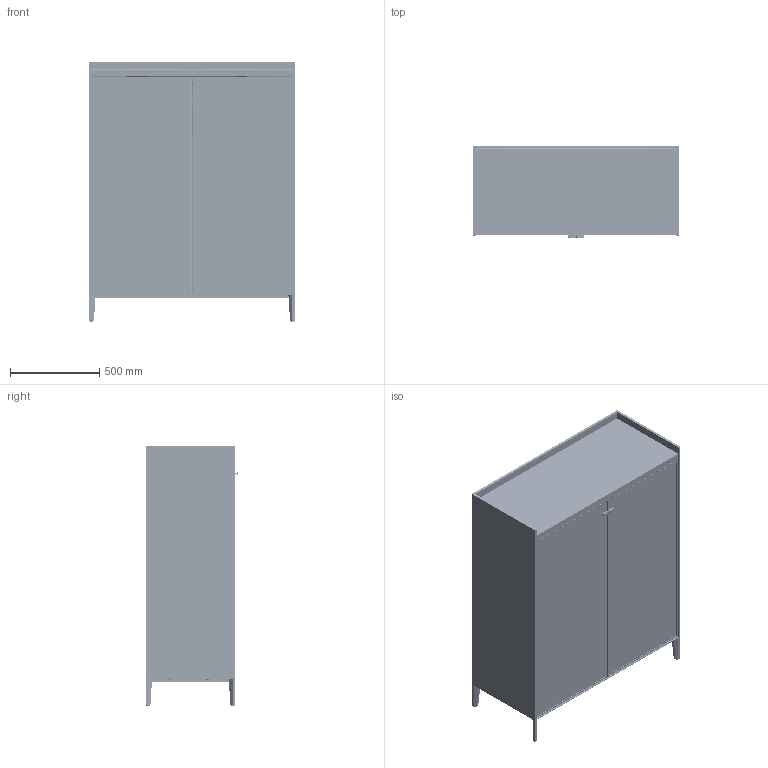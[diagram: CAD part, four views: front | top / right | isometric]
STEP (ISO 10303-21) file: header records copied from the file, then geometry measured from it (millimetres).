
FILE_DESCRIPTION(/* description */ (''),/* implementation_level */ '2;1');
FILE_NAME(/* name */ 'SEGESTA-BAR-cupboard',/* time_stamp */ '2026-06-29T18:46:17+02:00',/* author */ (''),/* organization */ (''),/* preprocessor_version */ 'ST-DEVELOPER v16.5',/* originating_system */ '',/* authorisation */ '');
FILE_SCHEMA (('CONFIG_CONTROL_DESIGN'));
Products named in the file (1): Document
Bounding box: 1150 x 517.66 x 1455 mm (x, y, z)
Volume: 165674257.2 mm3; surface area: 21586844.9 mm2
Topology: 116 solids, 124 shells, 6524 faces, 17700 edges, 11538 vertices
Faces by surface type: bspline 3897, plane 2627
Entity records: 379440 total; most frequent: CARTESIAN_POINT 276283, ORIENTED_EDGE 35172, EDGE_CURVE 17616, VERTEX_POINT 11538, B_SPLINE_CURVE_WITH_KNOTS 9892, EDGE_LOOP 7080, ADVANCED_FACE 6524, FACE_OUTER_BOUND 6524
